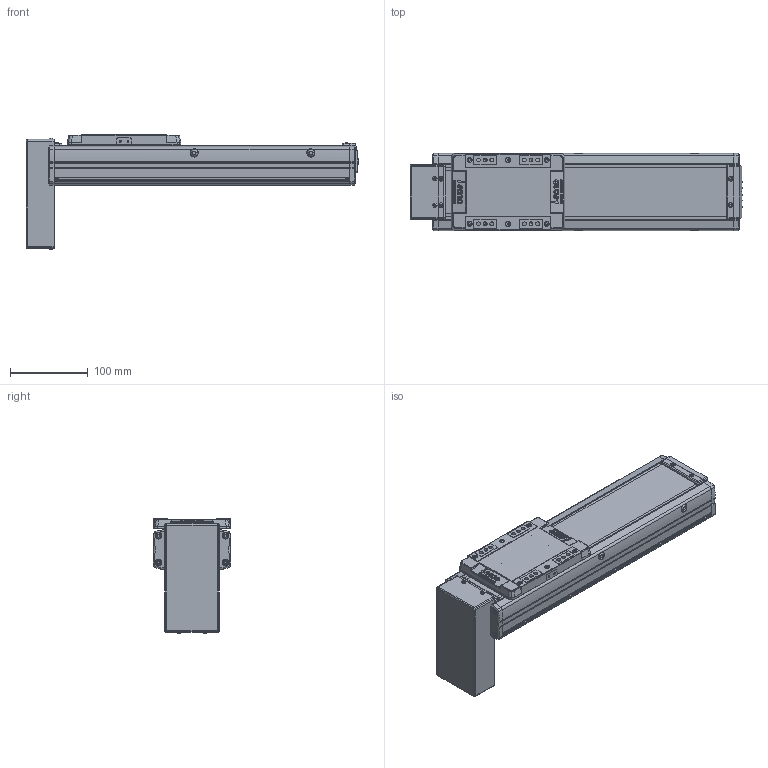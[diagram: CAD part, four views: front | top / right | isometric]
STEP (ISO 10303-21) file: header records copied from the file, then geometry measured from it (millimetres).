
FILE_DESCRIPTION(('STEP AP214'),'1');
FILE_NAME('Z:/Web/3D/SAN100/SAN100 양산용 (STEP)/SAN100ㅁㅁ-200PB.stp','2013-04-25T01:13:39',(' '),(' '),'Spatial InterOp 3D',' ',' ');
FILE_SCHEMA(('automotive_design'));
Length unit declared in the file: millimetre
Products named in the file (37): SUS COVER; SFX-SAN100; RRCV-SAN100; 스크루 : Round - M4.0 x 10.0; M3.0 x 6.0; 스크루 : Round - M3.0 x 6.0; FRBL-SAN100; SLBL-SAN100; SLCV-SAN100; 스크루 : Countersunk - M3.0 x 6.0; BASE; 스크루 : Round - M5.0 x 6.0; BTCV-SAN100; FRCV-SAN100
Bounding box: 426.5 x 100 x 148.36 mm (x, y, z)
Volume: 1517493.3 mm3; surface area: 358828.4 mm2
Topology: 37 solids, 40 shells, 1984 faces, 5138 edges, 3311 vertices
Faces by surface type: plane 1007, cylinder 705, cone 178, sphere 52, torus 30, bspline 12
Entity records: 77796 total; most frequent: CARTESIAN_POINT 11484, DIRECTION 10915, ORIENTED_EDGE 10128, EDGE_CURVE 5064, AXIS2_PLACEMENT_3D 3923, VERTEX_POINT 3311, LINE 3069, VECTOR 3069
